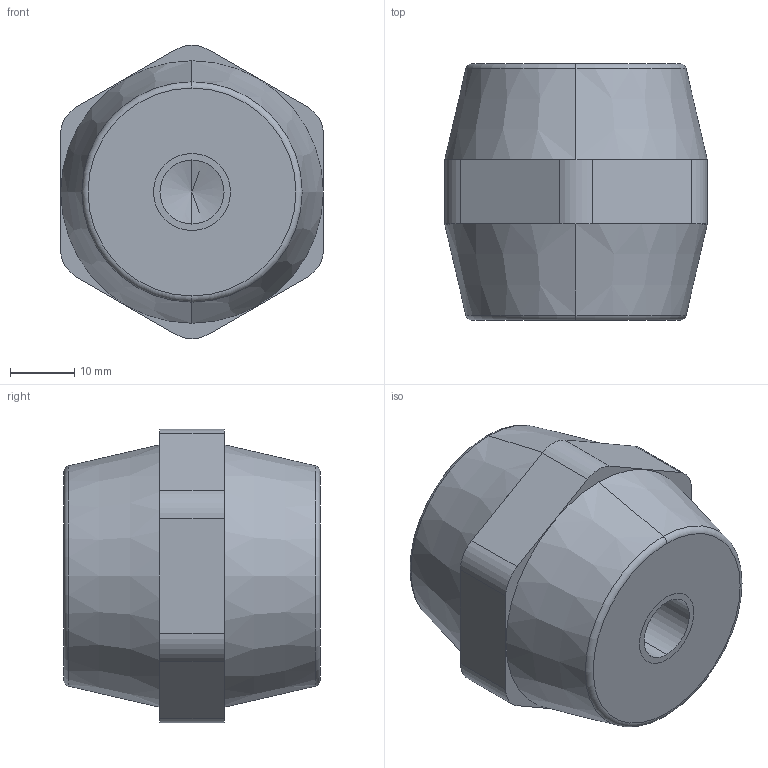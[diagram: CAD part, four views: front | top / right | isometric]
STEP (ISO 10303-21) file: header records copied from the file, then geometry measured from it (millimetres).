
FILE_DESCRIPTION (( 'STEP AP203' ), '1' );
FILE_NAME ('Isolatore 4062 41X40-M10.STEP', '2024-10-28T23:01:28', ( '' ), ( '' ), 'SwSTEP 2.0', 'SolidWorks 2020', '' );
FILE_SCHEMA (( 'CONFIG_CONTROL_DESIGN' ));
Length unit declared in the file: millimetre
Products named in the file (1): Isolatore 4062 41X40-M10
Bounding box: 41 x 40 x 45.8 mm (x, y, z)
Volume: 46336 mm3; surface area: 9879.8 mm2
Topology: 3 solids, 3 shells, 75 faces, 167 edges, 100 vertices
Faces by surface type: cylinder 35, plane 20, cone 16, torus 4
Entity records: 2088 total; most frequent: DIRECTION 393, CARTESIAN_POINT 331, ORIENTED_EDGE 310, AXIS2_PLACEMENT_3D 162, EDGE_CURVE 155, VERTEX_POINT 100, EDGE_LOOP 89, CIRCLE 86
